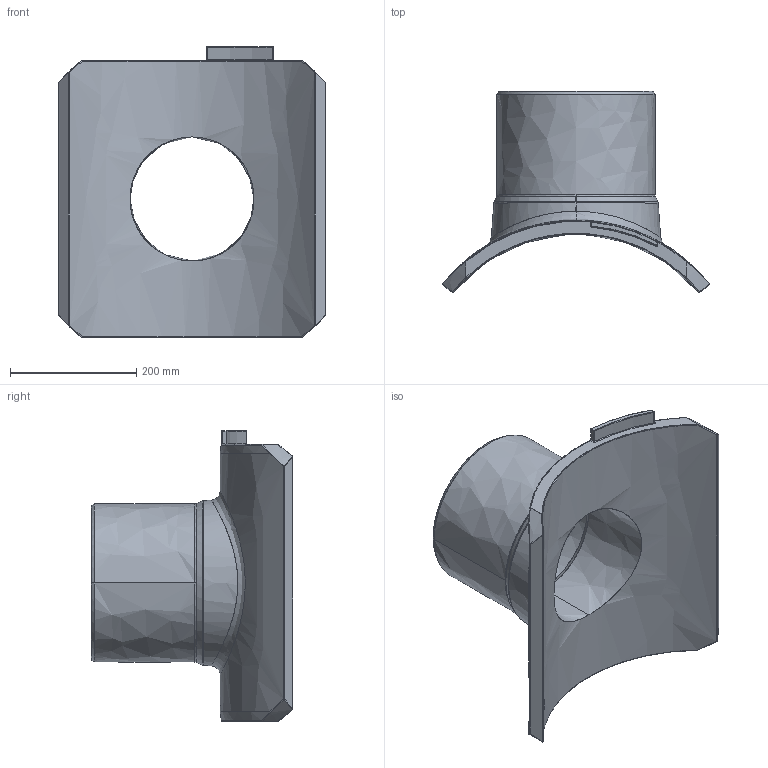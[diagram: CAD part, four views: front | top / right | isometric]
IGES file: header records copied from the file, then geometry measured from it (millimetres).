
Start section:  PTC IGES file: sa-uni_d500_250_01.igs
Global section: file name: sa-uni_d500_250_01.igs; native system: Creo Parametric by PTC Inc.; preprocessor: 2022124; author: mikulicp; organization: Unknown; date: 20240701.111616; units: millimetre
Bounding box: 422.59 x 318.63 x 460 mm (x, y, z)
Surface area: 694514.8 mm2 (no closed solid volume)
Topology: 0 solids, 0 shells, 241 faces, 1166 edges, 1166 vertices
Faces by surface type: bspline 241
